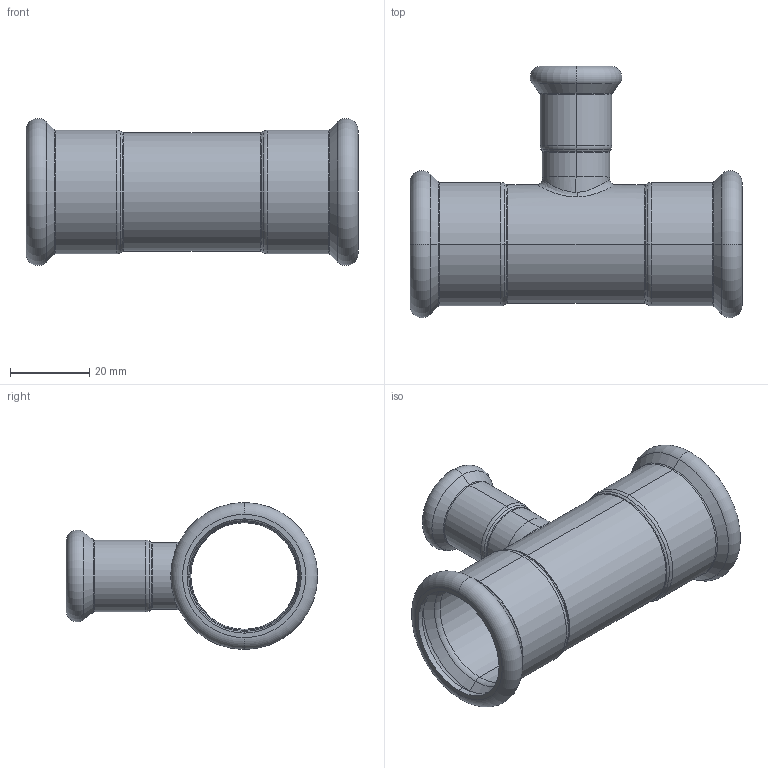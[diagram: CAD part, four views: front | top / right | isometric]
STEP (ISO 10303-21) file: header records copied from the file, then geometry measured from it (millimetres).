
FILE_DESCRIPTION (( 'STEP AP203' ), '1' );
FILE_NAME ('GDA5194.STEP', '2019-01-12T06:30:41', ( '' ), ( '' ), 'SwSTEP 2.0', 'SolidWorks 2015', '' );
FILE_SCHEMA (( 'CONFIG_CONTROL_DESIGN' ));
Length unit declared in the file: millimetre
Products named in the file (3): T-ｉ-01-15; GDA5194; T(R)-¢ñ-28¡Á15''
Assembly tree (2 placements, depth 2):
  GDA5194
    T(R)-¢ñ-28¡Á15''
    T-ｉ-01-15
Bounding box: 84 x 63.6 x 37.19 mm (x, y, z)
Volume: 15122 mm3; surface area: 20628.9 mm2
Topology: 2 solids, 2 shells, 114 faces, 234 edges, 128 vertices
Faces by surface type: torus 48, cylinder 30, cone 24, plane 8, bspline 4
Entity records: 4233 total; most frequent: CARTESIAN_POINT 1443, DIRECTION 620, ORIENTED_EDGE 468, AXIS2_PLACEMENT_3D 283, EDGE_CURVE 234, CIRCLE 168, VERTEX_POINT 128, EDGE_LOOP 124
